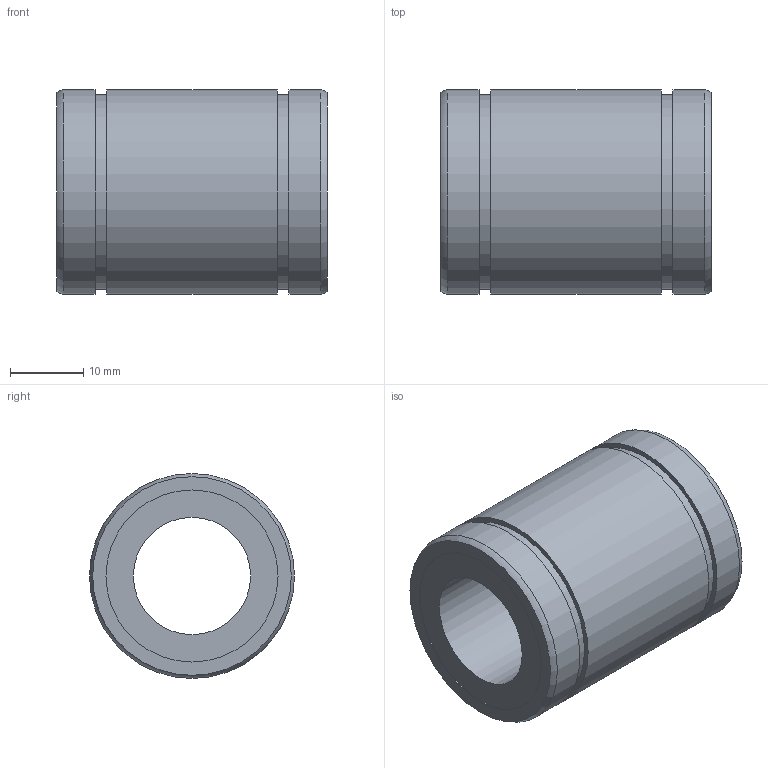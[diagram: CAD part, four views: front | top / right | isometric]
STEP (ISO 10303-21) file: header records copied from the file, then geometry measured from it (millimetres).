
FILE_DESCRIPTION((''),'2;1');
FILE_NAME('D:\製品 (図面)\カタログ用3D\リニアベアリング関連\STEP形式\L\L16.stp','2010-06-02T17:32:27',('Tsuchiya'),(''),'Autodesk Inventor 10','Autodesk Inventor 10','');
FILE_SCHEMA(('AUTOMOTIVE_DESIGN { 1 0 10303 214 1 1 1 1 }'));
Length unit declared in the file: millimetre
Products named in the file (1): L16
Bounding box: 37 x 28 x 28 mm (x, y, z)
Volume: 15075.4 mm3; surface area: 6115.5 mm2
Topology: 1 solids, 1 shells, 18 faces, 28 edges, 18 vertices
Faces by surface type: cylinder 8, plane 8, torus 2
Full cylindrical faces by diameter (mm): 16 x1, 23.5 x2, 26.6 x2, 28 x3
Entity records: 391 total; most frequent: DIRECTION 74, CARTESIAN_POINT 55, AXIS2_PLACEMENT_3D 37, ORIENTED_EDGE 36, EDGE_LOOP 36, VERTEX_POINT 18, CIRCLE 18, EDGE_CURVE 18
